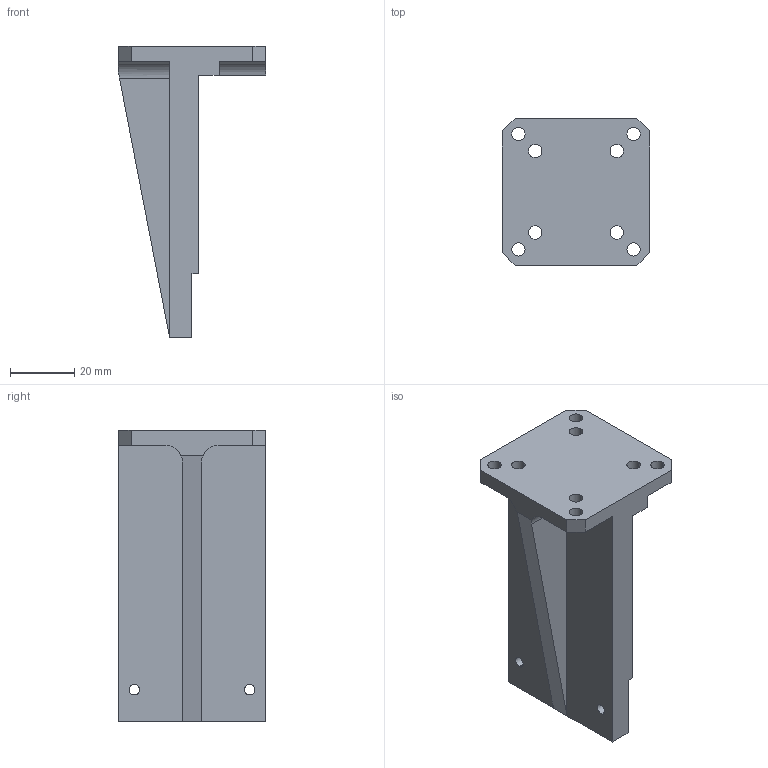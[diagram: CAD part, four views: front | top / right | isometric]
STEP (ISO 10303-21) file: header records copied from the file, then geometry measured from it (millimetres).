
FILE_DESCRIPTION (( 'STEP AP203' ), '1' );
FILE_NAME ('VH1408-Vertikalhalter-kurz.STEP', '2014-07-31T07:32:38', ( '' ), ( '' ), 'SwSTEP 2.0', 'SolidWorks 2014', '' );
FILE_SCHEMA (( 'CONFIG_CONTROL_DESIGN' ));
Length unit declared in the file: millimetre
Products named in the file (1): VH1408-Vertikalhalter-kurz
Bounding box: 46 x 46 x 91 mm (x, y, z)
Volume: 49471.1 mm3; surface area: 16180.5 mm2
Topology: 1 solids, 1 shells, 49 faces, 139 edges, 92 vertices
Faces by surface type: plane 25, cylinder 24
Entity records: 1722 total; most frequent: CARTESIAN_POINT 287, DIRECTION 285, ORIENTED_EDGE 278, EDGE_CURVE 139, AXIS2_PLACEMENT_3D 98, VERTEX_POINT 92, LINE 89, VECTOR 89
